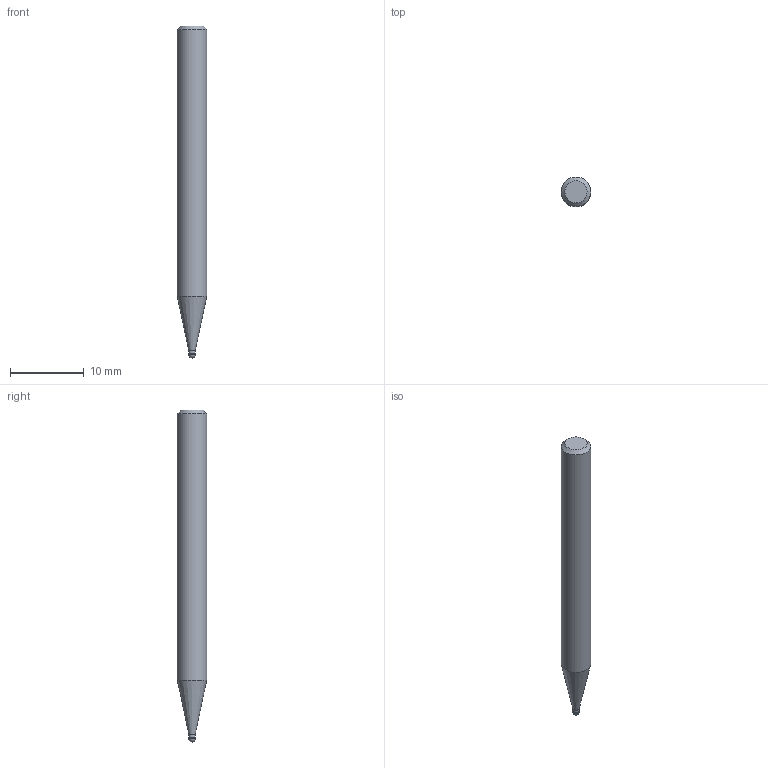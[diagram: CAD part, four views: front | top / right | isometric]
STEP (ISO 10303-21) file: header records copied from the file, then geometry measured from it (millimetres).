
FILE_DESCRIPTION((''),'2;1');
FILE_NAME('C:\Users\nsx150\AppData\Local\Temp\Mastercam 2021\ARV7HD45SN\TEMP.step','2023-06-13T16:35:05',(''),(''),'STEP Write','Mastercam 2021 ... CNC Software, Inc.','');
FILE_SCHEMA(('AUTOMOTIVE_DESIGN'));
Length unit declared in the file: millimetre
Products named in the file (1): None
Bounding box: 4 x 4 x 45 mm (x, y, z)
Volume: 498.2 mm3; surface area: 530.3 mm2
Topology: 2 solids, 2 shells, 9 faces, 14 edges, 8 vertices
Faces by surface type: plane 3, cylinder 3, cone 2, sphere 1
Full cylindrical faces by diameter (mm): 0.86 x1, 0.9 x1, 4 x1
Entity records: 211 total; most frequent: DIRECTION 36, CARTESIAN_POINT 25, AXIS2_PLACEMENT_3D 18, ORIENTED_EDGE 14, EDGE_LOOP 14, STYLED_ITEM 12, ADVANCED_FACE 9, FACE_BOUND 8
